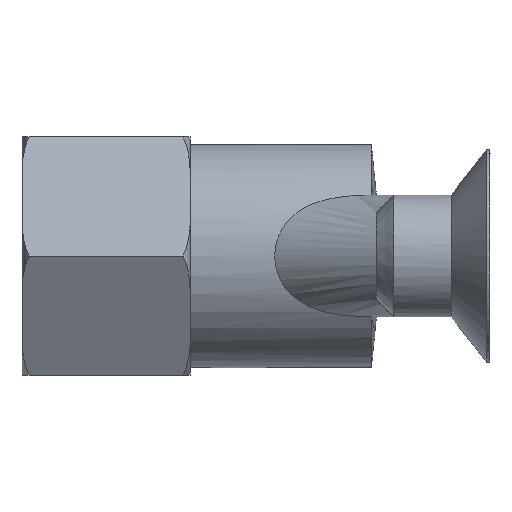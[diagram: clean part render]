
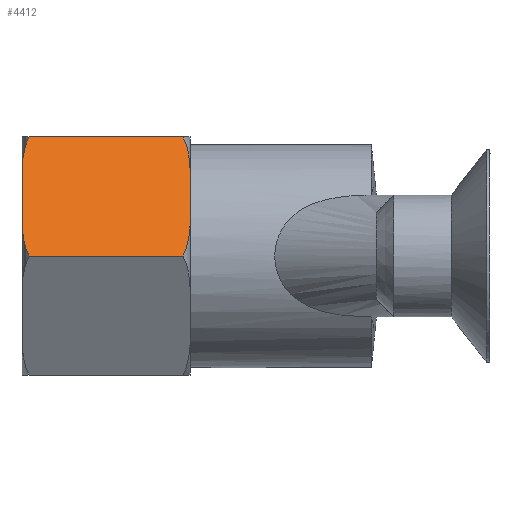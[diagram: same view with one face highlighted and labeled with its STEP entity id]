
A CAD part, left-side view. The second image highlights one B-rep face of the part: STEP entity #4412.
In plain terms, the highlighted planar face has unit normal (-0.866, 0, 0.5).
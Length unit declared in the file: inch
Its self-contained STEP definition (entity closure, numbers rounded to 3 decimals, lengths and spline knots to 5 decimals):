
#28 = CARTESIAN_POINT ( 'NONE',  ( -0.20947, 0.81868, 0.30648 ) ) ;
#48 = CARTESIAN_POINT ( 'NONE',  ( -0.38642, 0.82677, 0. ) ) ;
#141 = CARTESIAN_POINT ( 'NONE',  ( -0.22655, 0.35661, 0.2769 ) ) ;
#164 = CARTESIAN_POINT ( 'NONE',  ( -0.23517, 0.35517, 0.26197 ) ) ;
#194 = ORIENTED_EDGE ( 'NONE', *, *, #2208, .T. ) ;
#217 = DIRECTION ( 'NONE',  ( 0., -1., 0. ) ) ;
#242 = ORIENTED_EDGE ( 'NONE', *, *, #3300, .F. ) ;
#291 = ORIENTED_EDGE ( 'NONE', *, *, #3106, .T. ) ;
#329 = CARTESIAN_POINT ( 'NONE',  ( -0.33578, 0.82677, 0.0877 ) ) ;
#350 = DIRECTION ( 'NONE',  ( 0.5, 0., 0.866 ) ) ;
#373 = B_SPLINE_CURVE_WITH_KNOTS ( 'NONE', 3,
 ( #4390, #4027, #2670, #3755, #2300, #1581 ),
 .UNSPECIFIED., .F., .F.,
 ( 4, 2, 4 ),
 ( 0., 0.00131, 0.00262 ),
 .UNSPECIFIED. ) ;
#380 = AXIS2_PLACEMENT_3D ( 'NONE', #3480, #1045, #3793 ) ;
#426 = CARTESIAN_POINT ( 'NONE',  ( -0.24384, 0.35433, 0.24694 ) ) ;
#484 = B_SPLINE_CURVE_WITH_KNOTS ( 'NONE', 3,
 ( #1971, #2939, #4317, #3298, #3953, #1258 ),
 .UNSPECIFIED., .F., .F.,
 ( 4, 2, 4 ),
 ( 0., 0.00131, 0.00262 ),
 .UNSPECIFIED. ) ;
#806 = CARTESIAN_POINT ( 'NONE',  ( -0.24384, 0.82677, 0.24694 ) ) ;
#827 = EDGE_CURVE ( 'NONE', #1330, #2127, #2859, .T. ) ;
#979 = CARTESIAN_POINT ( 'NONE',  ( -0.19321, 0.37402, 0.33465 ) ) ;
#1045 = DIRECTION ( 'NONE',  ( 0.866, 0., -0.5 ) ) ;
#1130 = DIRECTION ( 'NONE',  ( 0., -1., 0. ) ) ;
#1161 = CARTESIAN_POINT ( 'NONE',  ( -0.38642, 0.82677, 0. ) ) ;
#1210 = B_SPLINE_CURVE_WITH_KNOTS ( 'NONE', 3,
 ( #4056, #164, #141, #1582, #1606, #1956 ),
 .UNSPECIFIED., .F., .F.,
 ( 4, 2, 4 ),
 ( 0., 0.00131, 0.00262 ),
 .UNSPECIFIED. ) ;
#1258 = CARTESIAN_POINT ( 'NONE',  ( -0.38642, 0.80709, 0. ) ) ;
#1330 = VERTEX_POINT ( 'NONE', #426 ) ;
#1530 = ORIENTED_EDGE ( 'NONE', *, *, #827, .F. ) ;
#1581 = CARTESIAN_POINT ( 'NONE',  ( -0.33578, 0.35433, 0.0877 ) ) ;
#1582 = CARTESIAN_POINT ( 'NONE',  ( -0.20959, 0.36238, 0.30627 ) ) ;
#1592 = ORIENTED_EDGE ( 'NONE', *, *, #4157, .T. ) ;
#1599 = VERTEX_POINT ( 'NONE', #329 ) ;
#1606 = CARTESIAN_POINT ( 'NONE',  ( -0.20124, 0.36658, 0.32073 ) ) ;
#1624 = VECTOR ( 'NONE', #4134, 39.37008 ) ;
#1627 = VECTOR ( 'NONE', #1130, 39.37008 ) ;
#1771 = CARTESIAN_POINT ( 'NONE',  ( -0.20113, 0.81442, 0.32092 ) ) ;
#1956 = CARTESIAN_POINT ( 'NONE',  ( -0.19321, 0.37402, 0.33465 ) ) ;
#1971 = CARTESIAN_POINT ( 'NONE',  ( -0.33578, 0.82677, 0.0877 ) ) ;
#2020 = VERTEX_POINT ( 'NONE', #979 ) ;
#2047 = CARTESIAN_POINT ( 'NONE',  ( -0.38642, 0.37402, 0. ) ) ;
#2127 = VERTEX_POINT ( 'NONE', #3504 ) ;
#2208 = EDGE_CURVE ( 'NONE', #1599, #4474, #484, .T. ) ;
#2211 = CARTESIAN_POINT ( 'NONE',  ( -0.22652, 0.82449, 0.27695 ) ) ;
#2300 = CARTESIAN_POINT ( 'NONE',  ( -0.34444, 0.35517, 0.0727 ) ) ;
#2332 = CARTESIAN_POINT ( 'NONE',  ( -0.19321, 0.82677, 0.33465 ) ) ;
#2477 = EDGE_CURVE ( 'NONE', #3880, #2020, #3110, .T. ) ;
#2633 = ORIENTED_EDGE ( 'NONE', *, *, #2477, .F. ) ;
#2641 = EDGE_CURVE ( 'NONE', #4474, #3476, #4258, .T. ) ;
#2670 = CARTESIAN_POINT ( 'NONE',  ( -0.37015, 0.36243, 0.02817 ) ) ;
#2691 = B_SPLINE_CURVE_WITH_KNOTS ( 'NONE', 3,
 ( #3264, #1771, #28, #2211, #3239, #806 ),
 .UNSPECIFIED., .F., .F.,
 ( 4, 2, 4 ),
 ( 0., 0.00131, 0.00262 ),
 .UNSPECIFIED. ) ;
#2757 = CARTESIAN_POINT ( 'NONE',  ( -0.38642, 0.35433, 0. ) ) ;
#2797 = FACE_OUTER_BOUND ( 'NONE', #3907, .T. ) ;
#2841 = LINE ( 'NONE', #1161, #4039 ) ;
#2859 = LINE ( 'NONE', #2757, #1624 ) ;
#2939 = CARTESIAN_POINT ( 'NONE',  ( -0.34446, 0.82593, 0.07267 ) ) ;
#2967 = CARTESIAN_POINT ( 'NONE',  ( -0.38642, 0.80709, 0. ) ) ;
#3016 = CARTESIAN_POINT ( 'NONE',  ( -0.19321, 0.80709, 0.33465 ) ) ;
#3106 = EDGE_CURVE ( 'NONE', #3476, #2127, #373, .T. ) ;
#3110 = LINE ( 'NONE', #2332, #3959 ) ;
#3178 = ORIENTED_EDGE ( 'NONE', *, *, #2641, .T. ) ;
#3239 = CARTESIAN_POINT ( 'NONE',  ( -0.23518, 0.82594, 0.26194 ) ) ;
#3264 = CARTESIAN_POINT ( 'NONE',  ( -0.19321, 0.80709, 0.33465 ) ) ;
#3298 = CARTESIAN_POINT ( 'NONE',  ( -0.37003, 0.81873, 0.02838 ) ) ;
#3300 = EDGE_CURVE ( 'NONE', #1599, #3623, #2841, .T. ) ;
#3476 = VERTEX_POINT ( 'NONE', #2047 ) ;
#3480 = CARTESIAN_POINT ( 'NONE',  ( -0.38642, 0.82677, 0. ) ) ;
#3504 = CARTESIAN_POINT ( 'NONE',  ( -0.33578, 0.35433, 0.0877 ) ) ;
#3623 = VERTEX_POINT ( 'NONE', #4149 ) ;
#3650 = EDGE_CURVE ( 'NONE', #3880, #3623, #2691, .T. ) ;
#3755 = CARTESIAN_POINT ( 'NONE',  ( -0.35311, 0.35661, 0.05769 ) ) ;
#3793 = DIRECTION ( 'NONE',  ( -0.5, 0., -0.866 ) ) ;
#3880 = VERTEX_POINT ( 'NONE', #3016 ) ;
#3907 = EDGE_LOOP ( 'NONE', ( #2633, #4356, #242, #194, #3178, #291, #1530, #1592 ) ) ;
#3953 = CARTESIAN_POINT ( 'NONE',  ( -0.37838, 0.81453, 0.01392 ) ) ;
#3959 = VECTOR ( 'NONE', #217, 39.37008 ) ;
#4027 = CARTESIAN_POINT ( 'NONE',  ( -0.37849, 0.36668, 0.01372 ) ) ;
#4039 = VECTOR ( 'NONE', #350, 39.37008 ) ;
#4056 = CARTESIAN_POINT ( 'NONE',  ( -0.24384, 0.35433, 0.24694 ) ) ;
#4134 = DIRECTION ( 'NONE',  ( -0.5, 0., -0.866 ) ) ;
#4149 = CARTESIAN_POINT ( 'NONE',  ( -0.24384, 0.82677, 0.24694 ) ) ;
#4157 = EDGE_CURVE ( 'NONE', #1330, #2020, #1210, .T. ) ;
#4175 = PLANE ( 'NONE',  #380 ) ;
#4258 = LINE ( 'NONE', #48, #1627 ) ;
#4317 = CARTESIAN_POINT ( 'NONE',  ( -0.35308, 0.82449, 0.05775 ) ) ;
#4356 = ORIENTED_EDGE ( 'NONE', *, *, #3650, .T. ) ;
#4390 = CARTESIAN_POINT ( 'NONE',  ( -0.38642, 0.37402, 0. ) ) ;
#4412 = ADVANCED_FACE ( 'NONE', ( #2797 ), #4175, .F. ) ;
#4474 = VERTEX_POINT ( 'NONE', #2967 ) ;
